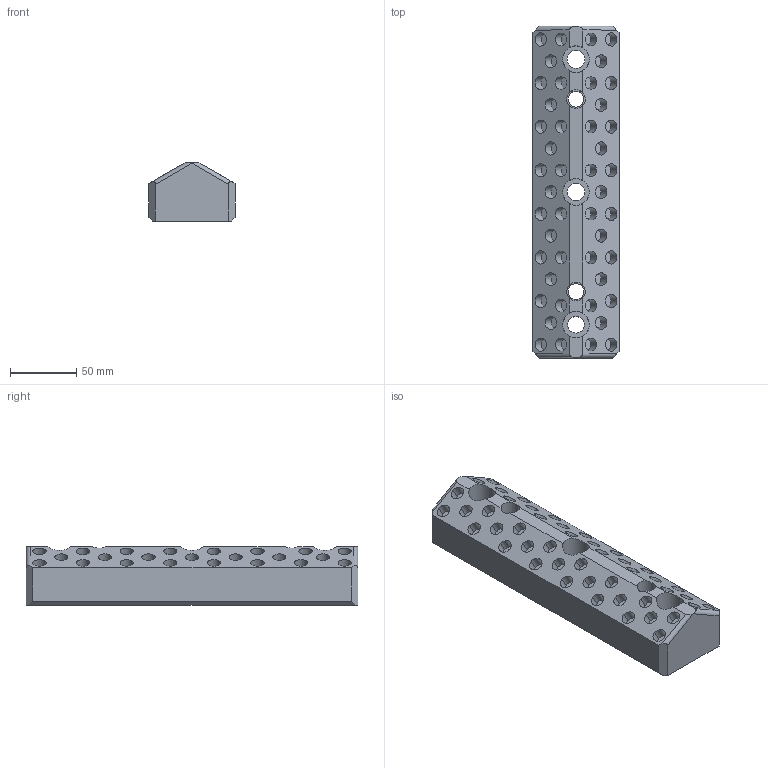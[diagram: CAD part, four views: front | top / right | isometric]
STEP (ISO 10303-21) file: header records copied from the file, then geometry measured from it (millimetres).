
FILE_DESCRIPTION (( 'STEP AP214' ), '1' );
FILE_NAME ('SW232-03-65x250.STEP', '2020-10-21T09:11:12', ( 'August' ), ( '' ), 'SwSTEP 2.0', 'SolidWorks 2018', '' );
FILE_SCHEMA (( 'AUTOMOTIVE_DESIGN' ));
Length unit declared in the file: millimetre
Products named in the file (1): SW232-03-65x250
Bounding box: 65 x 250 x 44 mm (x, y, z)
Volume: 529265.1 mm3; surface area: 74136.7 mm2
Topology: 1 solids, 1 shells, 188 faces, 418 edges, 278 vertices
Faces by surface type: cylinder 116, plane 70, sphere 2
Entity records: 6430 total; most frequent: CARTESIAN_POINT 1469, DIRECTION 986, ORIENTED_EDGE 836, EDGE_CURVE 418, AXIS2_PLACEMENT_3D 413, VERTEX_POINT 278, EDGE_LOOP 244, CIRCLE 224
